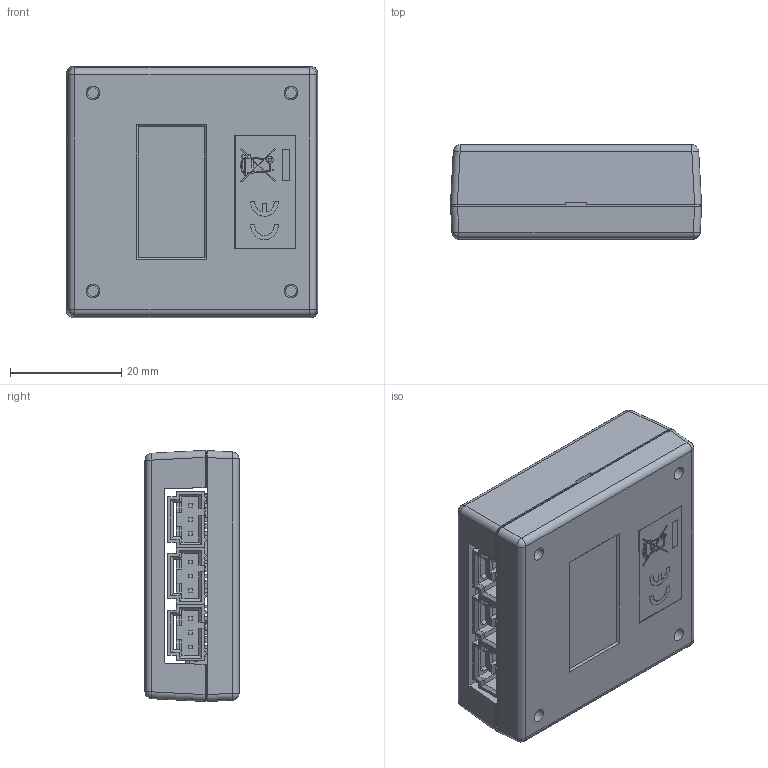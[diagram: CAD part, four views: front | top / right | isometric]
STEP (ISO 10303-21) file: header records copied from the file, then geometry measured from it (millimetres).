
FILE_DESCRIPTION(/* description */ ('Alibre Inc.'),/* implementation_level */ '2;1');
FILE_NAME(/* name */ 'export0',/* time_stamp */ '2018-05-25T10:48:02-06:00',/* author */ (''),/* organization */ (''),/* preprocessor_version */ 'ST-DEVELOPER v17',/* originating_system */ 'Alibre',/* authorisation */ '');
FILE_SCHEMA (('CONFIG_CONTROL_DESIGN'));
Length unit declared in the file: centimetre
Products named in the file (105): ID_1; ID_2; ID_3; ID_4; ID_5; ID_6; ID_7; ID_8; ID_9; ID_10; ID_11; ID_12; ID_13; ID_14; ID_15; ID_16; ID_17; ID_18; ID_19; ID_20; ID_21; ID_22; ID_23; ID_24
Bounding box: 45.11 x 16.89 x 45.12 mm (x, y, z)
Volume: 14724.3 mm3; surface area: 22691.6 mm2
Topology: 140 solids, 140 shells, 4300 faces, 11309 edges, 7372 vertices
Faces by surface type: plane 3035, bspline 820, cylinder 419, cone 12, sphere 10, torus 4
Full cylindrical faces by diameter (mm): 0.6 x1, 0.965 x18, 3.099 x4, 3.175 x4
Entity records: 67439 total; most frequent: CARTESIAN_POINT 15606, ORIENTED_EDGE 8702, DIRECTION 6552, EDGE_CURVE 4351, VECTOR 3188, LINE 3188, VERTEX_POINT 2810, AXIS2_PLACEMENT_3D 2223
